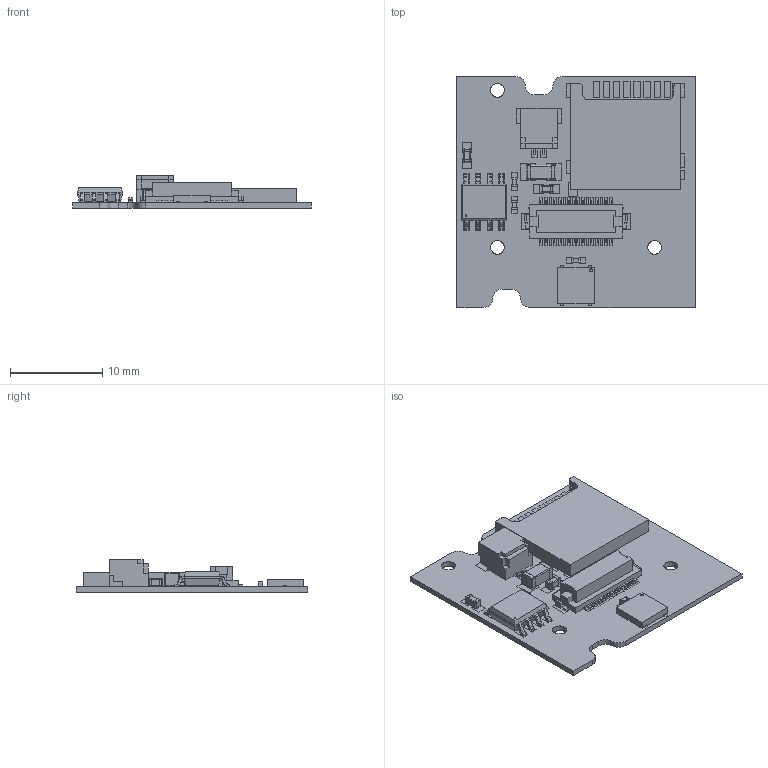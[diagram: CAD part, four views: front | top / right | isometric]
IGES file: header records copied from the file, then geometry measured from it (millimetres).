
Global section: file name: Filename.iges; native system: Open CASCADE 7.4; preprocessor: Open CASCADE IGES processor 7.4; date: 20200715.121614; units: millimetre
Bounding box: 25.8 x 25 x 3.5 mm (x, y, z)
Surface area: 4687.3 mm2 (no closed solid volume)
Topology: 0 solids, 0 shells, 2246 faces, 11486 edges, 14965 vertices
Faces by surface type: plane 1858, revolution 388
